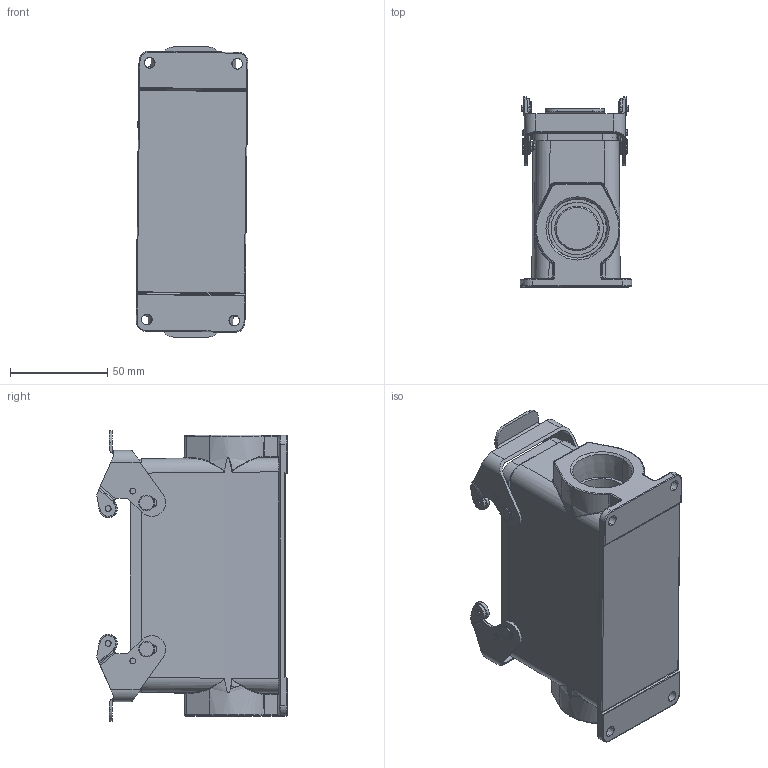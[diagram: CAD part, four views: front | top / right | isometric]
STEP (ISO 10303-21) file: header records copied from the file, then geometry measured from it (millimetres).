
FILE_DESCRIPTION (( 'STEP AP203' ), '1' );
FILE_NAME ('H24B-SGRH-M32.STEP', '2020-01-16T03:11:32', ( '' ), ( '' ), 'SwSTEP 2.0', 'SolidWorks 2016', '' );
FILE_SCHEMA (( 'CONFIG_CONTROL_DESIGN' ));
Length unit declared in the file: millimetre
Products named in the file (9): mifengdian; 24bh-surface-m-highconstruction; 24bcaixinshuangkou; tanhuang; maoding1; maoding; H24B-SGRH-M32; kahuan
Assembly tree (15 placements, depth 3):
  H24B-SGRH-M32
    mifengdian
    24bh-surface-m-highconstruction
    24bcaixinshuangkou  x2
      24bcaixinshuangkou
      kahuan
      tanhuang
      maoding1
      maoding
Bounding box: 57.53 x 97.75 x 149.12 mm (x, y, z)
Volume: 170140.6 mm3; surface area: 86204.1 mm2
Topology: 24 solids, 24 shells, 874 faces, 2076 edges, 1282 vertices
Faces by surface type: cylinder 340, plane 224, bspline 208, cone 102
Entity records: 21880 total; most frequent: CARTESIAN_POINT 9811, ORIENTED_EDGE 2426, DIRECTION 2105, EDGE_CURVE 1213, AXIS2_PLACEMENT_3D 777, VERTEX_POINT 752, LINE 551, VECTOR 551
